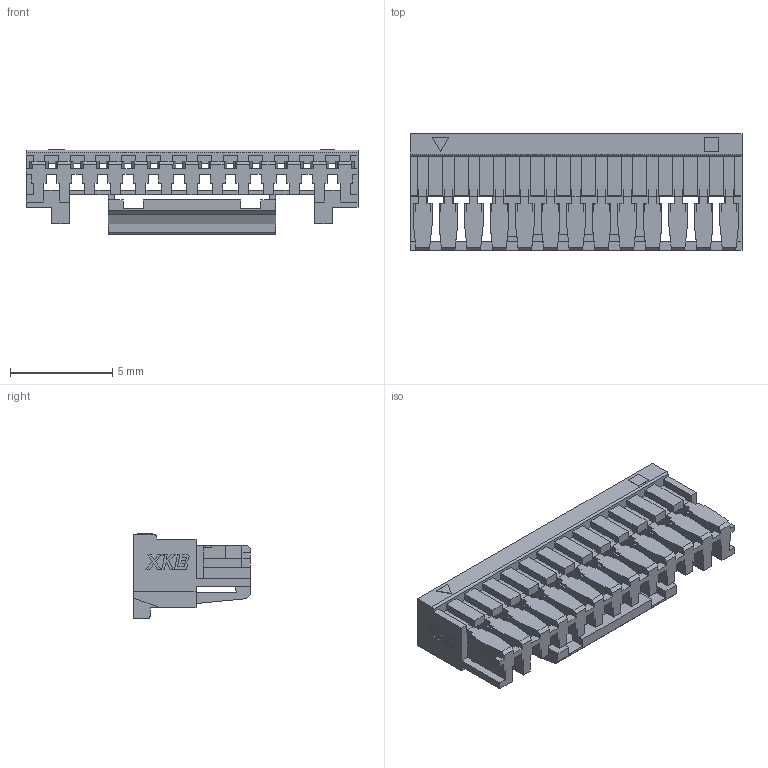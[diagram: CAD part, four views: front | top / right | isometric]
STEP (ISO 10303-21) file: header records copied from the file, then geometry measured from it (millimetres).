
FILE_DESCRIPTION (( 'STEP AP214' ), '1' );
FILE_NAME ('GHR-12V-S(IO).STEP', '2022-02-21T08:07:44', ( 'User' ), ( 'China' ), 'SwSTEP 2.0', 'SolidWorks 2016', '' );
FILE_SCHEMA (( 'AUTOMOTIVE_DESIGN' ));
Length unit declared in the file: millimetre
Products named in the file (1): GHR-12V-S(IO)
Bounding box: 16.25 x 5.7 x 4.14 mm (x, y, z)
Volume: 118.1 mm3; surface area: 697 mm2
Topology: 1 solids, 1 shells, 776 faces, 2377 edges, 1568 vertices
Faces by surface type: plane 742, cylinder 34
Entity records: 26325 total; most frequent: CARTESIAN_POINT 5328, ORIENTED_EDGE 4754, DIRECTION 3797, EDGE_CURVE 2377, LINE 2107, VECTOR 2107, VERTEX_POINT 1568, AXIS2_PLACEMENT_3D 845
